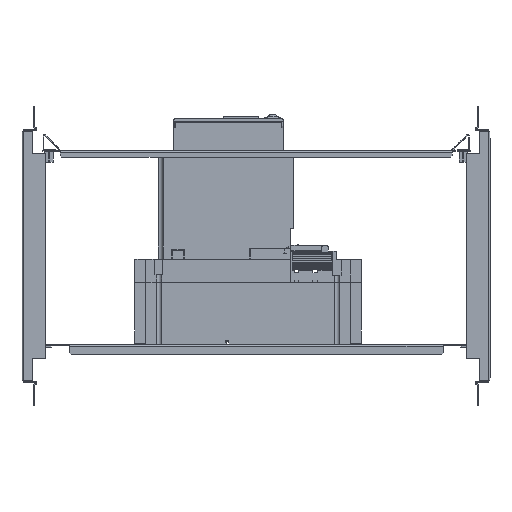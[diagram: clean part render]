
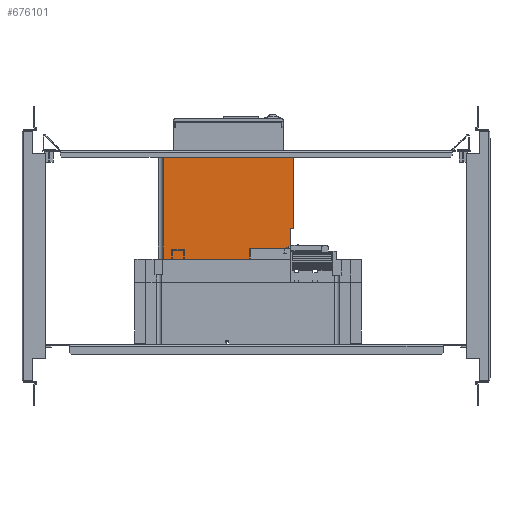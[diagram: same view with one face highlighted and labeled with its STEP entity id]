
A CAD part, front view. The second image highlights one B-rep face of the part: STEP entity #676101.
In plain terms, the highlighted planar face has unit normal (0, -1, 0).
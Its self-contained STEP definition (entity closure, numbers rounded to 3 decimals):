
#670941=CARTESIAN_POINT(' ',(-11.461,-66.767,30.353));
#670942=VERTEX_POINT(' ',#670941);
#670956=CARTESIAN_POINT(' ',(-108.861,-66.767,30.353));
#670961=DIRECTION(' ',(1.,0.,0.));
#670966=VECTOR(' ',#670961,1.);
#670971=LINE('',#670956,#670966);
#670976=CARTESIAN_POINT(' ',(-108.861,-66.767,30.353));
#670977=VERTEX_POINT(' ',#670976);
#670981=EDGE_CURVE(' ',#670977,#670942,#670971,.T.);
#675471=CARTESIAN_POINT(' ',(-11.461,-66.767,42.553));
#675472=VERTEX_POINT(' ',#675471);
#675486=CARTESIAN_POINT(' ',(-11.461,-66.767,42.553));
#675491=DIRECTION(' ',(0.,0.,-1.));
#675496=VECTOR(' ',#675491,1.);
#675501=LINE('',#675486,#675496);
#675506=EDGE_CURVE(' ',#675472,#670942,#675501,.T.);
#675541=DIRECTION(' ',(0.,-1.,0.));
#675546=CARTESIAN_POINT(' ',(-108.861,-66.767,30.353));
#675551=DIRECTION(' ',(1.,0.,0.));
#675556=AXIS2_PLACEMENT_3D(' ',#675546,#675541,#675551);
#675561=PLANE('NONE',#675556);
#675566=CARTESIAN_POINT(' ',(-107.361,-66.767,149.853));
#675571=DIRECTION(' ',(1.,0.,0.));
#675576=VECTOR(' ',#675571,1.);
#675581=LINE('',#675566,#675576);
#675586=CARTESIAN_POINT(' ',(-107.361,-66.767,149.853));
#675587=VERTEX_POINT(' ',#675586);
#675591=CARTESIAN_POINT(' ',(36.339,-66.767,149.853));
#675592=VERTEX_POINT(' ',#675591);
#675596=EDGE_CURVE(' ',#675587,#675592,#675581,.T.);
#675601=ORIENTED_EDGE(' ',*,*,#675596,.F.);
#675606=CARTESIAN_POINT(' ',(-107.361,-66.767,148.353));
#675611=DIRECTION(' ',(0.,-1.,0.));
#675616=DIRECTION(' ',(0.,0.,1.));
#675621=AXIS2_PLACEMENT_3D(' ',#675606,#675611,#675616);
#675626=CIRCLE('',#675621,1.5);
#675631=CARTESIAN_POINT(' ',(-108.861,-66.767,148.353));
#675632=VERTEX_POINT(' ',#675631);
#675636=EDGE_CURVE(' ',#675587,#675632,#675626,.T.);
#675641=ORIENTED_EDGE(' ',*,*,#675636,.T.);
#675646=CARTESIAN_POINT(' ',(-108.861,-66.767,148.353));
#675651=DIRECTION(' ',(0.,0.,-1.));
#675656=VECTOR(' ',#675651,1.);
#675661=LINE('',#675646,#675656);
#675666=EDGE_CURVE(' ',#675632,#670977,#675661,.T.);
#675671=ORIENTED_EDGE(' ',*,*,#675666,.T.);
#675676=ORIENTED_EDGE(' ',*,*,#670981,.T.);
#675681=ORIENTED_EDGE(' ',*,*,#675506,.F.);
#675686=CARTESIAN_POINT(' ',(25.339,-66.767,42.553));
#675691=DIRECTION(' ',(-1.,0.,0.));
#675696=VECTOR(' ',#675691,1.);
#675701=LINE('',#675686,#675696);
#675706=CARTESIAN_POINT(' ',(25.339,-66.767,42.553));
#675707=VERTEX_POINT(' ',#675706);
#675711=EDGE_CURVE(' ',#675707,#675472,#675701,.T.);
#675716=ORIENTED_EDGE(' ',*,*,#675711,.F.);
#675721=CARTESIAN_POINT(' ',(25.339,-66.767,57.553));
#675726=DIRECTION(' ',(-0.,-1.,0.));
#675731=DIRECTION(' ',(0.,0.,-1.));
#675736=AXIS2_PLACEMENT_3D(' ',#675721,#675726,#675731);
#675741=CIRCLE('',#675736,15.);
#675746=CARTESIAN_POINT(' ',(33.672,-66.767,45.081));
#675747=VERTEX_POINT(' ',#675746);
#675751=EDGE_CURVE(' ',#675707,#675747,#675741,.T.);
#675756=ORIENTED_EDGE(' ',*,*,#675751,.T.);
#675761=CARTESIAN_POINT(' ',(32.839,-66.767,46.328));
#675766=DIRECTION(' ',(-0.,-1.,0.));
#675771=DIRECTION(' ',(0.556,0.,-0.831));
#675776=AXIS2_PLACEMENT_3D(' ',#675761,#675766,#675771);
#675781=CIRCLE('',#675776,1.5);
#675786=CARTESIAN_POINT(' ',(34.339,-66.767,46.328));
#675787=VERTEX_POINT(' ',#675786);
#675791=EDGE_CURVE(' ',#675747,#675787,#675781,.T.);
#675796=ORIENTED_EDGE(' ',*,*,#675791,.T.);
#675801=CARTESIAN_POINT(' ',(34.339,-66.767,64.853));
#675806=DIRECTION(' ',(0.,0.,-1.));
#675811=VECTOR(' ',#675806,1.);
#675816=LINE('',#675801,#675811);
#675821=CARTESIAN_POINT(' ',(34.339,-66.767,64.853));
#675822=VERTEX_POINT(' ',#675821);
#675826=EDGE_CURVE(' ',#675822,#675787,#675816,.T.);
#675831=ORIENTED_EDGE(' ',*,*,#675826,.F.);
#675836=CARTESIAN_POINT(' ',(34.339,-66.767,64.853));
#675841=DIRECTION(' ',(1.,0.,0.));
#675846=VECTOR(' ',#675841,1.);
#675851=LINE('',#675836,#675846);
#675856=CARTESIAN_POINT(' ',(37.839,-66.767,64.853));
#675857=VERTEX_POINT(' ',#675856);
#675861=EDGE_CURVE(' ',#675822,#675857,#675851,.T.);
#675866=ORIENTED_EDGE(' ',*,*,#675861,.T.);
#675871=CARTESIAN_POINT(' ',(37.839,-66.767,148.353));
#675876=DIRECTION(' ',(0.,0.,-1.));
#675881=VECTOR(' ',#675876,1.);
#675886=LINE('',#675871,#675881);
#675891=CARTESIAN_POINT(' ',(37.839,-66.767,148.353));
#675892=VERTEX_POINT(' ',#675891);
#675896=EDGE_CURVE(' ',#675892,#675857,#675886,.T.);
#675901=ORIENTED_EDGE(' ',*,*,#675896,.F.);
#675906=CARTESIAN_POINT(' ',(36.339,-66.767,148.353));
#675911=DIRECTION(' ',(-0.,-1.,-0.));
#675916=DIRECTION(' ',(1.,0.,0.));
#675921=AXIS2_PLACEMENT_3D(' ',#675906,#675911,#675916);
#675926=CIRCLE('',#675921,1.5);
#675931=EDGE_CURVE(' ',#675892,#675592,#675926,.T.);
#675936=ORIENTED_EDGE(' ',*,*,#675931,.T.);
#675941=EDGE_LOOP(' ',(#675601,#675641,#675671,#675676,#675681,#675716,#675756,#675796,#675831,#675866,#675901,#675936));
#675946=FACE_OUTER_BOUND(' ',#675941,.T.);
#675951=CARTESIAN_POINT(' ',(-85.361,-66.767,40.853));
#675956=DIRECTION(' ',(-1.,0.,0.));
#675961=VECTOR(' ',#675956,1.);
#675966=LINE('',#675951,#675961);
#675971=CARTESIAN_POINT(' ',(-85.361,-66.767,40.853));
#675972=VERTEX_POINT(' ',#675971);
#675976=CARTESIAN_POINT(' ',(-99.361,-66.767,40.853));
#675977=VERTEX_POINT(' ',#675976);
#675981=EDGE_CURVE(' ',#675972,#675977,#675966,.T.);
#675986=ORIENTED_EDGE(' ',*,*,#675981,.F.);
#675991=CARTESIAN_POINT(' ',(-85.361,-66.767,39.853));
#675996=DIRECTION(' ',(0.,0.,1.));
#676001=VECTOR(' ',#675996,1.);
#676006=LINE('',#675991,#676001);
#676011=CARTESIAN_POINT(' ',(-85.361,-66.767,39.853));
#676012=VERTEX_POINT(' ',#676011);
#676016=EDGE_CURVE(' ',#676012,#675972,#676006,.T.);
#676021=ORIENTED_EDGE(' ',*,*,#676016,.F.);
#676026=CARTESIAN_POINT(' ',(-99.361,-66.767,39.853));
#676031=DIRECTION(' ',(1.,0.,0.));
#676036=VECTOR(' ',#676031,1.);
#676041=LINE('',#676026,#676036);
#676046=CARTESIAN_POINT(' ',(-99.361,-66.767,39.853));
#676047=VERTEX_POINT(' ',#676046);
#676051=EDGE_CURVE(' ',#676047,#676012,#676041,.T.);
#676056=ORIENTED_EDGE(' ',*,*,#676051,.F.);
#676061=CARTESIAN_POINT(' ',(-99.361,-66.767,40.853));
#676066=DIRECTION(' ',(0.,0.,-1.));
#676071=VECTOR(' ',#676066,1.);
#676076=LINE('',#676061,#676071);
#676081=EDGE_CURVE(' ',#675977,#676047,#676076,.T.);
#676086=ORIENTED_EDGE(' ',*,*,#676081,.F.);
#676091=EDGE_LOOP(' ',(#675986,#676021,#676056,#676086));
#676096=FACE_BOUND(' ',#676091,.T.);
#676101=ADVANCED_FACE('NONE',(#675946,#676096),#675561,.T.);
